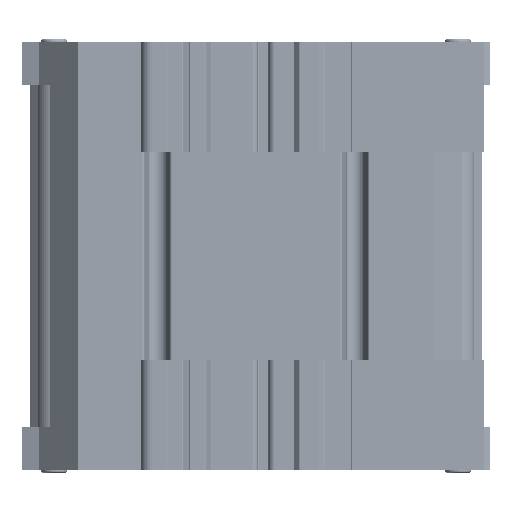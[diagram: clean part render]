
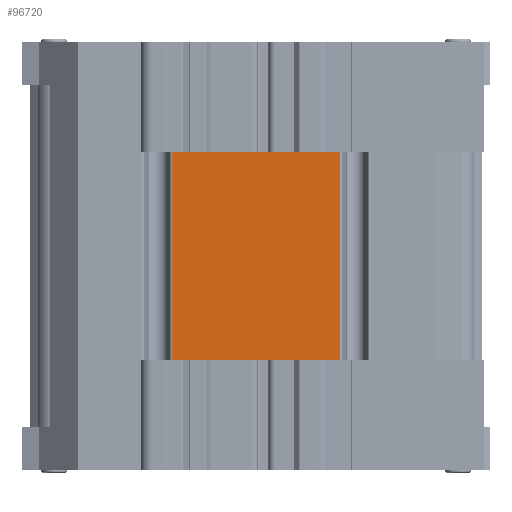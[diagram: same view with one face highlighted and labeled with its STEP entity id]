
A CAD part, left-side view. The second image highlights one B-rep face of the part: STEP entity #96720.
In plain terms, the highlighted planar face has unit normal (-1, 0, 0).
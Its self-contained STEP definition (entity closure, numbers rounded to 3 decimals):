
#13621=DIRECTION('',(0.,0.,-1.));
#13622=VECTOR('',#13621,37.4);
#13623=CARTESIAN_POINT('',(4.648,6.648,105.396));
#13624=LINE('',#13623,#13622);
#13641=DIRECTION('',(0.,-1.,0.));
#13642=VECTOR('',#13641,30.1);
#13643=CARTESIAN_POINT('',(4.648,36.748,67.996));
#13644=LINE('',#13643,#13642);
#13645=DIRECTION('',(0.,1.,0.));
#13646=VECTOR('',#13645,30.1);
#13647=CARTESIAN_POINT('',(4.648,6.648,105.396));
#13648=LINE('',#13647,#13646);
#13657=DIRECTION('',(0.,0.,1.));
#13658=VECTOR('',#13657,37.4);
#13659=CARTESIAN_POINT('',(4.648,36.748,67.996));
#13660=LINE('',#13659,#13658);
#73650=CARTESIAN_POINT('',(4.648,6.648,105.396));
#73651=CARTESIAN_POINT('',(4.648,36.748,105.396));
#73652=VERTEX_POINT('',#73650);
#73653=VERTEX_POINT('',#73651);
#75057=CARTESIAN_POINT('',(4.648,36.748,67.996));
#75059=VERTEX_POINT('',#75057);
#76796=CARTESIAN_POINT('',(4.648,6.648,67.996));
#76797=VERTEX_POINT('',#76796);
#96708=CARTESIAN_POINT('',(4.648,36.748,123.496));
#96709=DIRECTION('',(1.,0.,0.));
#96710=DIRECTION('',(0.,0.,-1.));
#96711=AXIS2_PLACEMENT_3D('',#96708,#96709,#96710);
#96712=PLANE('',#96711);
#96713=ORIENTED_EDGE('',*,*,#93597,.F.);
#96715=ORIENTED_EDGE('',*,*,#96714,.T.);
#96716=ORIENTED_EDGE('',*,*,#95742,.F.);
#96717=ORIENTED_EDGE('',*,*,#96683,.T.);
#96718=EDGE_LOOP('',(#96713,#96715,#96716,#96717));
#96719=FACE_OUTER_BOUND('',#96718,.F.);
#96720=ADVANCED_FACE('',(#96719),#96712,.F.);
#93597=EDGE_CURVE('',#75059,#76797,#13644,.T.);
#95742=EDGE_CURVE('',#73652,#73653,#13648,.T.);
#96683=EDGE_CURVE('',#73652,#76797,#13624,.T.);
#96714=EDGE_CURVE('',#75059,#73653,#13660,.T.);
